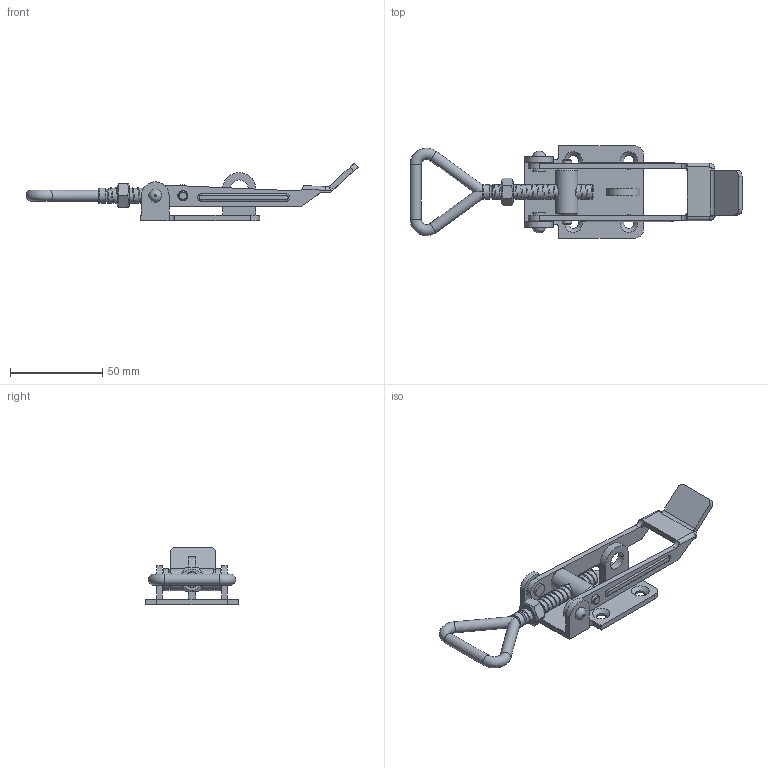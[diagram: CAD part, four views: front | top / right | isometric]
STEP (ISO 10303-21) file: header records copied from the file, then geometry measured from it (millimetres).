
FILE_DESCRIPTION(/* description */ ('Unknown'),/* implementation_level */ '2;1');
FILE_NAME(/* name */ '3320',/* time_stamp */ '2022-02-01T10:01:04+01:00',/* author */ ('Unknown'),/* organization */ ('Unknown'),/* preprocessor_version */ 'ST-DEVELOPER v16.7',/* originating_system */ 'DEX',/* authorisation */ $);
FILE_SCHEMA (('AUTOMOTIVE_DESIGN {1 0 10303 214 3 1 1}'));
Length unit declared in the file: millimetre
Products named in the file (7): 3320; GRUDPLATE 1; BOL M8 123-3; B軶E  L96; TEIL3; SECHSKANTMUTTER - DIN 555-5 - M8; HANDBE 123-7
Assembly tree (7 placements, depth 2):
  3320
    GRUDPLATE 1
    BOL M8 123-3
    B軶E  L96
    TEIL3  x2
    SECHSKANTMUTTER - DIN 555-5 - M8
    HANDBE 123-7
Bounding box: 179.66 x 50 x 30.99 mm (x, y, z)
Volume: 29451.5 mm3; surface area: 22203.3 mm2
Topology: 7 solids, 7 shells, 157 faces, 391 edges, 255 vertices
Faces by surface type: plane 65, cylinder 60, cone 16, torus 13, bspline 3
Full cylindrical faces by diameter (mm): 4.5 x2, 5 x4, 5.5 x8, 6 x3, 6.647 x2, 7 x2, 8 x1, 10 x1, 12 x1
Entity records: 7562 total; most frequent: CARTESIAN_POINT 3927, DIRECTION 736, ORIENTED_EDGE 652, EDGE_CURVE 326, AXIS2_PLACEMENT_3D 296, VERTEX_POINT 237, EDGE_LOOP 227, FACE_BOUND 227
